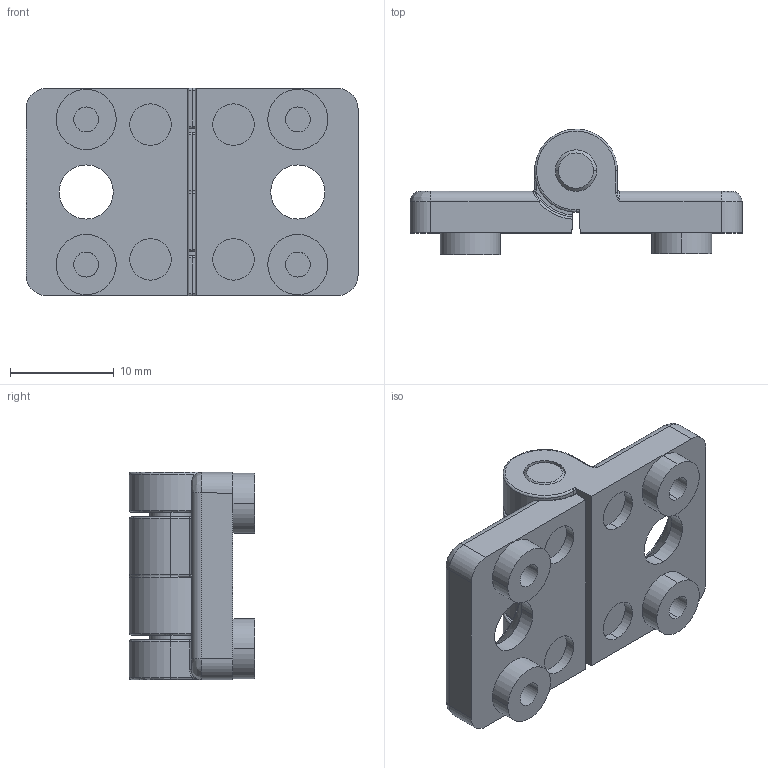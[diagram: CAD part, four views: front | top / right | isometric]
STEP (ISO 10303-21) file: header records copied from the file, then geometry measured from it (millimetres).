
FILE_DESCRIPTION (( 'STEP AP203' ), '1' );
FILE_NAME ('99900731_Scharnier PA 20x32 Nut 6.step', '2022-10-13T12:15:58', ( '' ), ( '' ), 'SwSTEP 2.0', 'SolidWorks 2021', '' );
FILE_SCHEMA (( 'CONFIG_CONTROL_DESIGN' ));
Length unit declared in the file: millimetre
Products named in the file (4): 2.2; 1.1; 3.3; 99900731_Scharnier PA 20x32 Nut 6
Assembly tree (3 placements, depth 2):
  99900731_Scharnier PA 20x32 Nut 6
    1.1
    2.2
    3.3
Bounding box: 32 x 12.1 x 20 mm (x, y, z)
Volume: 3023.3 mm3; surface area: 3174.8 mm2
Topology: 3 solids, 3 shells, 253 faces, 620 edges, 383 vertices
Faces by surface type: cylinder 98, plane 82, bspline 44, cone 29
Entity records: 9455 total; most frequent: CARTESIAN_POINT 3484, ORIENTED_EDGE 1236, DIRECTION 1081, EDGE_CURVE 618, AXIS2_PLACEMENT_3D 436, VERTEX_POINT 383, EDGE_LOOP 277, ADVANCED_FACE 253
